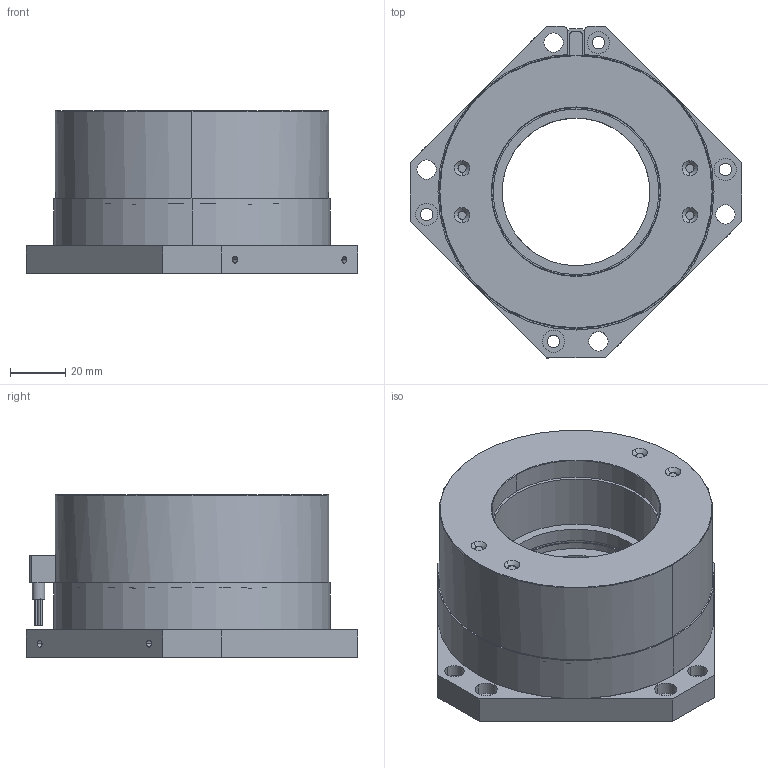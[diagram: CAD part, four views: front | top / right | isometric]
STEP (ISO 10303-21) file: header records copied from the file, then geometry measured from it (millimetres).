
FILE_DESCRIPTION (( 'STEP AP203' ), '1' );
FILE_NAME ('24043三维外形图-24.05.10.STEP', '2024-05-10T00:24:25', ( '微软用户' ), ( '微软中国' ), 'SwSTEP 2.0', 'SolidWorks 2016', '' );
FILE_SCHEMA (( 'CONFIG_CONTROL_DESIGN' ));
Length unit declared in the file: millimetre
Products named in the file (1): 24043三维外形图-24.05.10
Bounding box: 120.21 x 120.21 x 59 mm (x, y, z)
Volume: 283466.5 mm3; surface area: 109665.4 mm2
Topology: 9 solids, 9 shells, 351 faces, 857 edges, 547 vertices
Faces by surface type: cylinder 167, plane 130, cone 52, torus 2
Entity records: 10712 total; most frequent: CARTESIAN_POINT 1968, DIRECTION 1937, ORIENTED_EDGE 1698, EDGE_CURVE 849, AXIS2_PLACEMENT_3D 756, VERTEX_POINT 547, EDGE_LOOP 442, LINE 425
